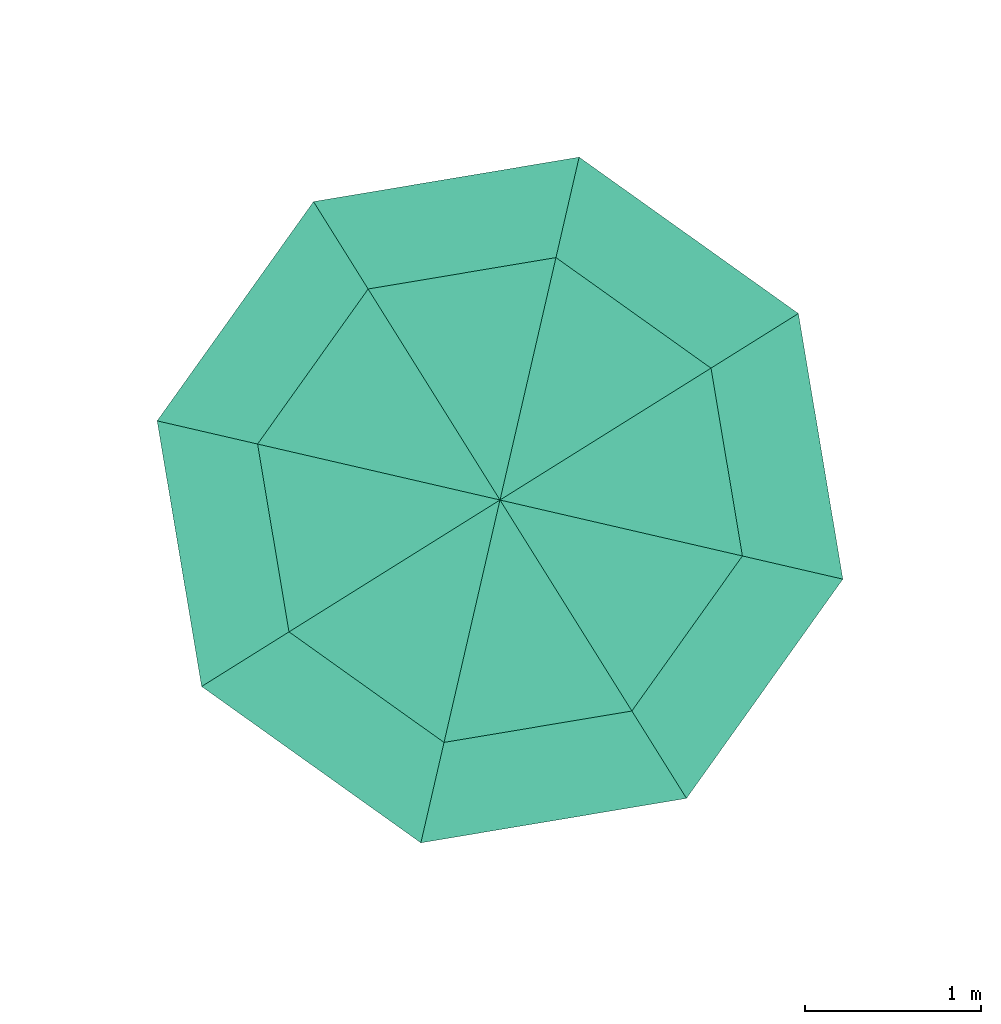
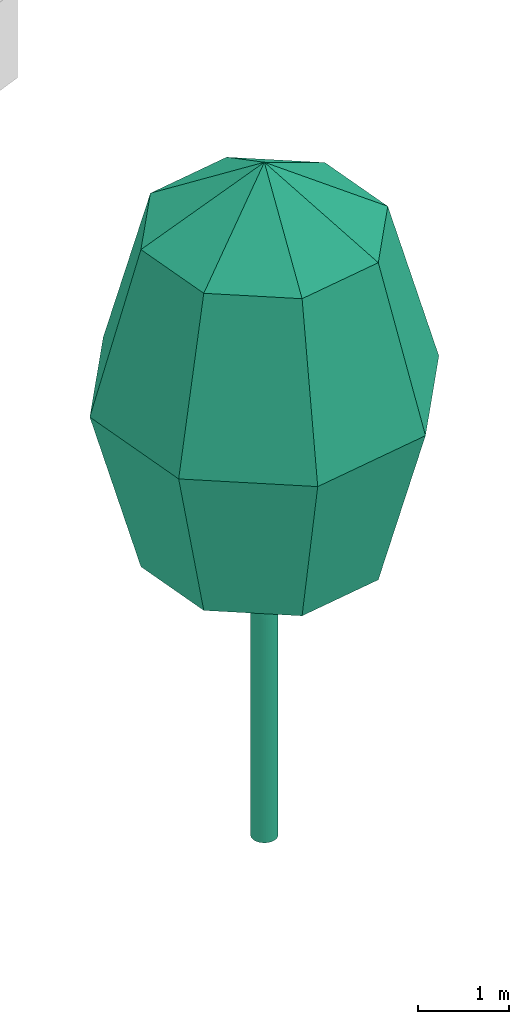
# One storey, part 87 of 119: 1 flow terminal.
"""IFC2X3 building model written with IfcOpenShell, lengths in metres."""

from ifc_helpers import new_model, entity, si_unit, converted_unit, derived_unit, money_unit, direction, frame, origin_with_axes, place, context, subcontext, project, spatial, faceted_brep, source, transform, mapped, type_object, element, save


model = new_model("IFC2X3")

# Units and contexts
model_context = context("Model", 3, precision=1e-05, world=origin_with_axes(), true_north=direction((0.0, 1.0)))
body_context = subcontext(model_context, "Body", "Model", "MODEL_VIEW")
ifc_project = project(units=[si_unit("LENGTHUNIT", "METRE"), si_unit("AREAUNIT", "SQUARE_METRE"), si_unit("VOLUMEUNIT", "CUBIC_METRE"), converted_unit("PLANEANGLEUNIT", "DEGREE", entity("IfcPlaneAngleMeasure", 0.0174532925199), si_unit("PLANEANGLEUNIT", "RADIAN"), dimensions=[0, 0, 0, 0, 0, 0, 0]), si_unit("SOLIDANGLEUNIT", "STERADIAN"), money_unit("EUR"), converted_unit("TIMEUNIT", "Year", entity("IfcTimeMeasure", 31556926.0), si_unit("TIMEUNIT", "SECOND"), dimensions=[0, 0, 1, 0, 0, 0, 0]), si_unit("MASSUNIT", "GRAM", prefix="KILO"), si_unit("THERMODYNAMICTEMPERATUREUNIT", "DEGREE_CELSIUS"), si_unit("LUMINOUSINTENSITYUNIT", "LUMEN"), si_unit("ENERGYUNIT", "JOULE", prefix="MEGA"), derived_unit("THERMALCONDUCTANCEUNIT", [(si_unit("POWERUNIT", "WATT"), 1), (si_unit("LENGTHUNIT", "METRE"), -1), (si_unit("THERMODYNAMICTEMPERATUREUNIT", "KELVIN"), -1)]), derived_unit("SPECIFICHEATCAPACITYUNIT", [(si_unit("ENERGYUNIT", "JOULE"), 1), (si_unit("MASSUNIT", "GRAM", prefix="KILO"), -1), (si_unit("THERMODYNAMICTEMPERATUREUNIT", "KELVIN"), -1)]), derived_unit("MASSDENSITYUNIT", [(si_unit("MASSUNIT", "GRAM", prefix="KILO"), 1), (si_unit("VOLUMEUNIT", "CUBIC_METRE"), -1)])], contexts=[model_context])

# Site, building, storey
site_placement = place(None, origin_with_axes())
site = spatial("IfcSite", under=ifc_project, at=site_placement, Name="Site", CompositionType="ELEMENT")
building_placement = place(site_placement, origin_with_axes())
building = spatial("IfcBuilding", under=site, at=building_placement, Name="Bâtiment", CompositionType="ELEMENT")
storey_placement = place(building_placement, origin_with_axes())
storey = spatial("IfcBuildingStorey", under=building, at=storey_placement, Name="Rez-de-chaussée", CompositionType="ELEMENT", Elevation=0.0)

# Flow terminal
air_terminal_type = type_object("IfcAirTerminalType", Name="Modèle arbre conceptuel 23", PredefinedType="NOTDEFINED")
shared_shape = source(origin_with_axes(), body_context, "Body", "Brep", [
    faceted_brep([(-0.147721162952, -0.02604722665, 0.0), (-0.15, 0.0, 0.0), (-0.147721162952, 0.02604722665, 0.0), (-0.140953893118, 0.0513030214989, 0.0), (-0.129903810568, 0.075, 0.0), (-0.114906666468, 0.096418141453, 0.0), (-0.096418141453, 0.114906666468, 0.0), (-0.075, 0.129903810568, 0.0), (-0.0513030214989, 0.140953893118, 0.0), (-0.02604722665, 0.147721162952, 0.0), (0.0, 0.15, 0.0), (0.02604722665, 0.147721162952, 0.0), (0.0513030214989, 0.140953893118, 0.0), (0.075, 0.129903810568, 0.0), (0.096418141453, 0.114906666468, 0.0), (0.114906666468, 0.096418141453, 0.0), (0.129903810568, 0.075, 0.0), (0.140953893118, 0.0513030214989, 0.0), (0.147721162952, 0.02604722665, 0.0), (0.15, 0.0, 0.0), (0.147721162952, -0.02604722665, 0.0), (0.140953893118, -0.0513030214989, 0.0), (0.129903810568, -0.075, 0.0), (0.114906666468, -0.096418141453, 0.0), (0.096418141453, -0.114906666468, 0.0), (0.075, -0.129903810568, 0.0), (0.0513030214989, -0.140953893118, 0.0), (0.02604722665, -0.147721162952, 0.0), (0.0, -0.15, 0.0), (-0.02604722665, -0.147721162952, 0.0), (-0.0513030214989, -0.140953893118, 0.0), (-0.075, -0.129903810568, 0.0), (-0.096418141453, -0.114906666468, 0.0), (-0.114906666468, -0.096418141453, 0.0), (-0.129903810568, -0.075, 0.0), (-0.140953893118, -0.0513030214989, 0.0), (-0.147721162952, -0.02604722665, 3.0), (-0.15, 0.0, 3.0), (-0.147721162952, 0.02604722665, 3.0), (-0.140953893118, 0.0513030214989, 3.0), (-0.129903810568, 0.075, 3.0), (-0.114906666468, 0.096418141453, 3.0), (-0.096418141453, 0.114906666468, 3.0), (-0.075, 0.129903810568, 3.0), (-0.0513030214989, 0.140953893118, 3.0), (-0.02604722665, 0.147721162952, 3.0), (0.0, 0.15, 3.0), (0.02604722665, 0.147721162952, 3.0), (0.0513030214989, 0.140953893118, 3.0), (0.075, 0.129903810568, 3.0), (0.096418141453, 0.114906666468, 3.0), (0.114906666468, 0.096418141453, 3.0), (0.129903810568, 0.075, 3.0), (0.140953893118, 0.0513030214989, 3.0), (0.147721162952, 0.02604722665, 3.0), (0.15, 0.0, 3.0), (0.147721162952, -0.02604722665, 3.0), (0.140953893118, -0.0513030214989, 3.0), (0.129903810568, -0.075, 3.0), (0.114906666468, -0.096418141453, 3.0), (0.096418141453, -0.114906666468, 3.0), (0.075, -0.129903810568, 3.0), (0.0513030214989, -0.140953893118, 3.0), (0.02604722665, -0.147721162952, 3.0), (0.0, -0.15, 3.0), (-0.02604722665, -0.147721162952, 3.0), (-0.0513030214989, -0.140953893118, 3.0), (-0.075, -0.129903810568, 3.0), (-0.096418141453, -0.114906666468, 3.0), (-0.114906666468, -0.096418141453, 3.0), (-0.129903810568, -0.075, 3.0), (-0.140953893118, -0.0513030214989, 3.0)], [[[0, 1, 2, 3, 4, 5, 6, 7, 8, 9, 10, 11, 12, 13, 14, 15, 16, 17, 18, 19, 20, 21, 22, 23, 24, 25, 26, 27, 28, 29, 30, 31, 32, 33, 34, 35]], [[0, 36, 37, 1]], [[1, 37, 38, 2]], [[2, 38, 39, 3]], [[3, 39, 40, 4]], [[4, 40, 41, 5]], [[5, 41, 42, 6]], [[6, 42, 43, 7]], [[7, 43, 44, 8]], [[8, 44, 45, 9]], [[9, 45, 46, 10]], [[10, 46, 47, 11]], [[11, 47, 48, 12]], [[12, 48, 49, 13]], [[13, 49, 50, 14]], [[14, 50, 51, 15]], [[15, 51, 52, 16]], [[16, 52, 53, 17]], [[17, 53, 54, 18]], [[18, 54, 55, 19]], [[19, 55, 56, 20]], [[20, 56, 57, 21]], [[21, 57, 58, 22]], [[22, 58, 59, 23]], [[23, 59, 60, 24]], [[24, 60, 61, 25]], [[25, 61, 62, 26]], [[26, 62, 63, 27]], [[27, 63, 64, 28]], [[28, 64, 65, 29]], [[29, 65, 66, 30]], [[30, 66, 67, 31]], [[31, 67, 68, 32]], [[32, 68, 69, 33]], [[33, 69, 70, 34]], [[34, 70, 71, 35]], [[35, 71, 36, 0]], [[36, 71, 70, 69, 68, 67, 66, 65, 64, 63, 62, 61, 60, 59, 58, 57, 56, 55, 54, 53, 52, 51, 50, 49, 48, 47, 46, 45, 44, 43, 42, 41, 40, 39, 38, 37]]]),
    faceted_brep([(-0.147721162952, -0.02604722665, 3.0), (-0.15, 0.0, 3.0), (-0.147721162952, 0.02604722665, 3.0), (-0.140953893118, 0.0513030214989, 3.0), (-0.129903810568, 0.075, 3.0), (-0.114906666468, 0.096418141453, 3.0), (-0.096418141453, 0.114906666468, 3.0), (-0.075, 0.129903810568, 3.0), (-0.0513030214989, 0.140953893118, 3.0), (-0.02604722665, 0.147721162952, 3.0), (0.0, 0.15, 3.0), (0.02604722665, 0.147721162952, 3.0), (0.0513030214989, 0.140953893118, 3.0), (0.075, 0.129903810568, 3.0), (0.096418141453, 0.114906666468, 3.0), (0.114906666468, 0.096418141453, 3.0), (0.129903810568, 0.075, 3.0), (0.140953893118, 0.0513030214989, 3.0), (0.147721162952, 0.02604722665, 3.0), (0.15, 0.0, 3.0), (0.147721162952, -0.02604722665, 3.0), (0.140953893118, -0.0513030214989, 3.0), (0.129903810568, -0.075, 3.0), (0.114906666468, -0.096418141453, 3.0), (0.096418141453, -0.114906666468, 3.0), (0.075, -0.129903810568, 3.0), (0.0513030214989, -0.140953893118, 3.0), (0.02604722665, -0.147721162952, 3.0), (0.0, -0.15, 3.0), (-0.02604722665, -0.147721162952, 3.0), (-0.0513030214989, -0.140953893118, 3.0), (-0.075, -0.129903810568, 3.0), (-0.096418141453, -0.114906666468, 3.0), (-0.114906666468, -0.096418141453, 3.0), (-0.129903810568, -0.075, 3.0), (-0.140953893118, -0.0513030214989, 3.0), (0.0, 0.0, 6.0)], [[[0, 1, 2, 3, 4, 5, 6, 7, 8, 9, 10, 11, 12, 13, 14, 15, 16, 17, 18, 19, 20, 21, 22, 23, 24, 25, 26, 27, 28, 29, 30, 31, 32, 33, 34, 35]], [[0, 36, 1]], [[1, 36, 2]], [[2, 36, 3]], [[3, 36, 4]], [[4, 36, 5]], [[5, 36, 6]], [[6, 36, 7]], [[7, 36, 8]], [[8, 36, 9]], [[9, 36, 10]], [[10, 36, 11]], [[11, 36, 12]], [[12, 36, 13]], [[13, 36, 14]], [[14, 36, 15]], [[15, 36, 16]], [[16, 36, 17]], [[17, 36, 18]], [[18, 36, 19]], [[19, 36, 20]], [[20, 36, 21]], [[21, 36, 22]], [[22, 36, 23]], [[23, 36, 24]], [[24, 36, 25]], [[25, 36, 26]], [[26, 36, 27]], [[27, 36, 28]], [[28, 36, 29]], [[29, 36, 30]], [[30, 36, 31]], [[31, 36, 32]], [[32, 36, 33]], [[33, 36, 34]], [[34, 36, 35]], [[35, 36, 0]]]),
    faceted_brep([(-1.41421356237, 0.0, 8.12132034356), (-1.0, -1.0, 8.12132034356), (0.0, 0.0, 9.0), (-2.0, 0.0, 6.0), (-1.41421356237, -1.41421356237, 6.0), (0.0, -1.41421356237, 8.12132034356), (-1.0, 1.0, 8.12132034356), (-1.41421356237, 0.0, 3.87867965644), (-1.0, -1.0, 3.87867965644), (0.0, -2.0, 6.0), (-1.41421356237, 1.41421356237, 6.0), (1.0, -1.0, 8.12132034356), (0.0, 1.41421356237, 8.12132034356), (0.0, 0.0, 3.0), (0.0, -1.41421356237, 3.87867965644), (-1.0, 1.0, 3.87867965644), (1.41421356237, -1.41421356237, 6.0), (0.0, 2.0, 6.0), (1.41421356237, 0.0, 8.12132034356), (1.0, 1.0, 8.12132034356), (1.0, -1.0, 3.87867965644), (0.0, 1.41421356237, 3.87867965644), (2.0, 0.0, 6.0), (1.41421356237, 1.41421356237, 6.0), (1.41421356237, 0.0, 3.87867965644), (1.0, 1.0, 3.87867965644)], [[[0, 1, 2]], [[3, 4, 1, 0]], [[1, 5, 2]], [[6, 0, 2]], [[7, 8, 4, 3]], [[4, 9, 5, 1]], [[10, 3, 0, 6]], [[5, 11, 2]], [[12, 6, 2]], [[13, 8, 7]], [[8, 14, 9, 4]], [[15, 7, 3, 10]], [[9, 16, 11, 5]], [[17, 10, 6, 12]], [[11, 18, 2]], [[19, 12, 2]], [[13, 14, 8]], [[13, 7, 15]], [[14, 20, 16, 9]], [[21, 15, 10, 17]], [[16, 22, 18, 11]], [[23, 17, 12, 19]], [[18, 19, 2]], [[13, 20, 14]], [[13, 15, 21]], [[20, 24, 22, 16]], [[25, 21, 17, 23]], [[22, 23, 19, 18]], [[13, 24, 20]], [[13, 21, 25]], [[24, 25, 23, 22]], [[13, 25, 24]]]),
])
flow_terminal_placement = place(storey_placement, frame((-7.06985575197, -33.831062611, -1.34510726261), z_axis=(0.0, 0.0, 1.0), x_axis=(-0.224876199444, -0.974387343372, 0.0)))
element("IfcFlowTerminal", 1, at=flow_terminal_placement, inside=storey, type_object=air_terminal_type, Name="Prunus ceradifera", ObjectType="AIR TERMINAL", context=body_context, shape_type="MappedRepresentation", body=[
    mapped(shared_shape, transform((0.0, 0.0, 0.0))),
])

save(model, "model.ifc")
